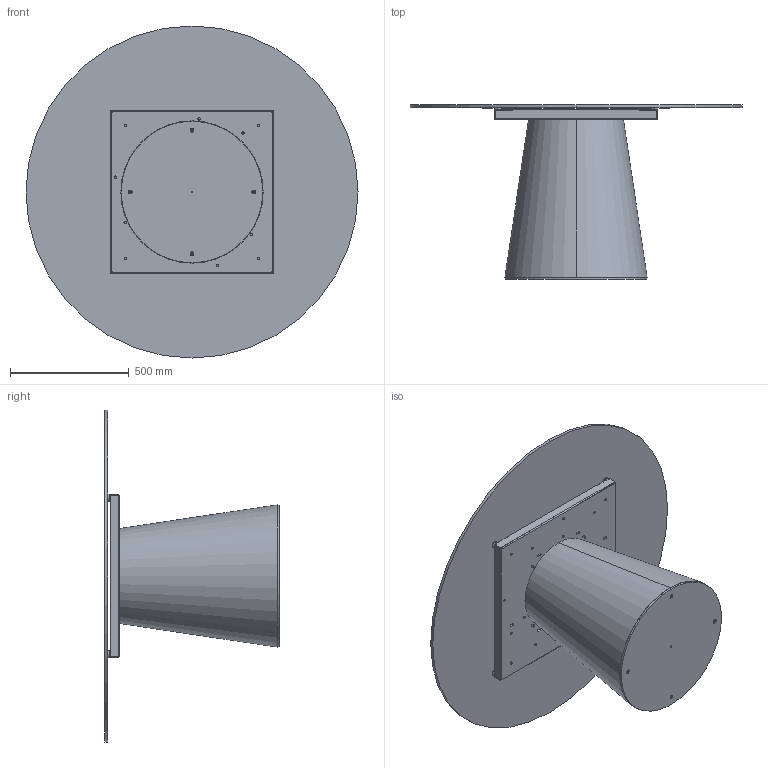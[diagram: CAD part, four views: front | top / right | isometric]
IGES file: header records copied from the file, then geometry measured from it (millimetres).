
Start section: SolidWorks IGES file using analytic representation for surfaces
Global section: file name: Y:\eforma\TECNICO\SOLIDWORKS\E-FORMA\1-TAVOLI\TEO\08 modelli 3D web\TO06G_Teo_d.140_Glass.IGS; native system: SolidWorks 2022; preprocessor: SolidWorks 2022; author: eforma.tech; date: 240802.112004; units: millimetre
Bounding box: 1400 x 735.19 x 1400 mm (x, y, z)
Volume: 48737570.7 mm3; surface area: 7558254.3 mm2
Topology: 20 solids, 20 shells, 648 faces, 1650 edges, 1040 vertices
Faces by surface type: revolution 326, plane 322
